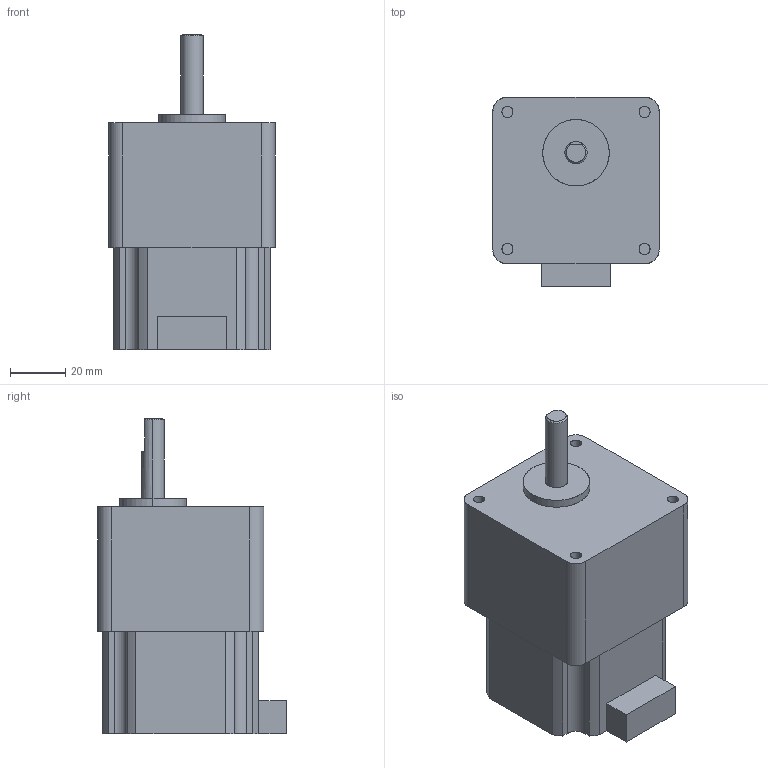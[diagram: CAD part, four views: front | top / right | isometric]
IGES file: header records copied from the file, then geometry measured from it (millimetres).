
Start section: SolidWorks IGES file using analytic representation for surfaces
Global section: file name: \\192.168.10.221\kari\6263\PMSA-U56D1-S_\IGES—p.IGS; native system: SolidWorks 2009; preprocessor: SolidWorks 2009; author: 3dcad; date: 100329.170438; units: millimetre
Bounding box: 60 x 68.2 x 114 mm (x, y, z)
Surface area: 27286.4 mm2 (no closed solid volume)
Topology: 0 solids, 0 shells, 62 faces, 784 edges, 784 vertices
Faces by surface type: revolution 31, bspline 31
